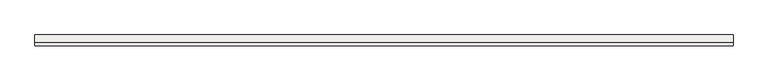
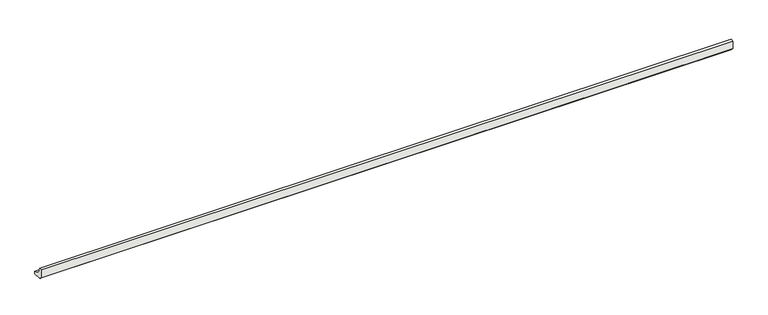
"""IFC4 building model written with IfcOpenShell, lengths in millimetres: slab geometry, ROSA GRES_188 : Pieza 188_Serena_Ocra_Anti-Slip."""

from ifc_helpers import new_model, si_unit, point, frame, frame_2d, origin, place, context, project, spatial, polyline, circle_curve, trimmed, segment, composite_curve, outline, extrude, source, transform, mapped, element, save


def slab_b4ade6bd(model_context):
    return source(origin(), model_context, "Body", "SweptSolid", [
        extrude(outline(composite_curve([segment(polyline([(0.0, 8.7114978), (0.0, 40.0), (9.9734114, 40.0)]), True, "CONTINUOUS"), segment(trimmed(circle_curve(frame_2d((39.9955547, 39.9955547)), 30.0221435), [point((9.9734114, 40.0))], [point((40.0, 9.9734114))], True, "CARTESIAN"), True, "CONTINUOUS"), segment(polyline([(40.0, 9.9734114), (40.0, 0.0), (8.7114978, 0.0), (0.0, 8.7114978)]), True, "CONTINUOUS")], self_intersect=False)), frame((0.0, 0.0, 0.0), z_axis=(1.0, 0.0, 0.0), x_axis=(0.0, 1.0, 0.0)), (0.0, 0.0, 1.0), 2602.0254671),
    ])


if __name__ == "__main__":
    model = new_model("IFC4")
    model_context = context("Model", 3, world=origin())
    ifc_project = project(units=[si_unit("LENGTHUNIT", "METRE", prefix="MILLI")], contexts=[model_context])
    site = spatial("IfcSite", under=ifc_project)
    building = spatial("IfcBuilding", under=site)
    placement = place(None, origin())
    slab_shape = slab_b4ade6bd(model_context)
    element("IfcSlab", 1, ObjectType="ROSA GRES_188 : Pieza 188_Serena_Ocra_Anti-Slip", at=placement, inside=building, context=model_context, shape_type="MappedRepresentation", body=[
        mapped(slab_shape, transform((0.0, 0.0, 0.0), x_axis=(1.0, 0.0, 0.0), y_axis=(0.0, 1.0, 0.0), z_axis=(0.0, 0.0, 1.0))),
    ])
    save(model, "model.ifc")
